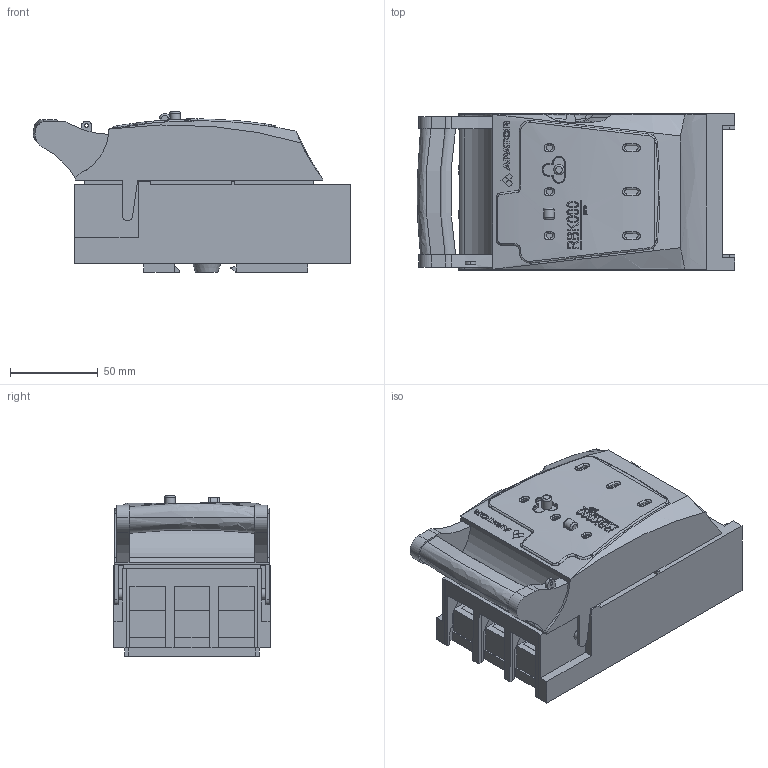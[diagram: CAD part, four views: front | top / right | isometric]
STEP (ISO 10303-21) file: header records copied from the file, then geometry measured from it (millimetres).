
FILE_DESCRIPTION(/* description */ (''),/* implementation_level */ '2;1');
FILE_NAME(/* name */ 'RBK 000 pro-E - 63-823191-051.stp',/* time_stamp */ '2019-03-05T12:59:25+01:00',/* author */ (''),/* organization */ (''),/* preprocessor_version */ 'ST-DEVELOPER v16',/* originating_system */ 'SIEMENS PLM Software NX 10.0',/* authorisation */ '');
FILE_SCHEMA (('AUTOMOTIVE_DESIGN { 1 0 10303 214 3 1 1 1 }'));
Products named in the file (1): 710_1A04BEC5vzs5
Bounding box: 180.71 x 89 x 91.5 mm (x, y, z)
Volume: 869841.4 mm3; surface area: 101189.6 mm2
Topology: 1 solids, 1 shells, 1312 faces, 3690 edges, 2436 vertices
Faces by surface type: plane 1024, cylinder 115, extrusion 99, bspline 54, torus 18, cone 2
Full cylindrical faces by diameter (mm): 2 x1, 5.8 x2, 5.86 x1, 6.5 x2, 8.5 x6
Entity records: 58070 total; most frequent: CARTESIAN_POINT 16656, ORIENTED_EDGE 7338, DIRECTION 6092, EDGE_CURVE 3669, VERTEX_POINT 2432, AXIS2_PLACEMENT_3D 2042, VECTOR 2008, LINE 1909
